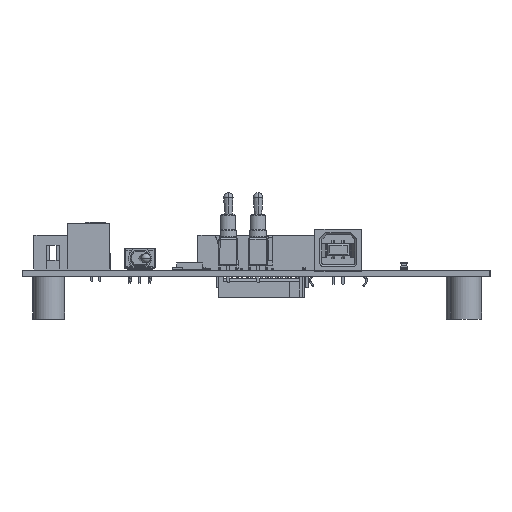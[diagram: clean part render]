
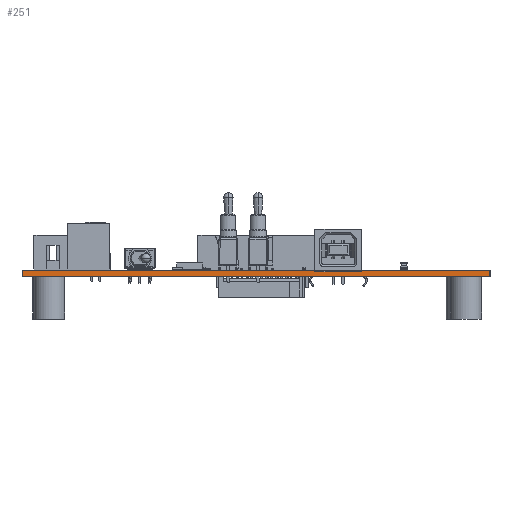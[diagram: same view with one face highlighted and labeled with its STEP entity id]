
A CAD part, left-side view. The second image highlights one B-rep face of the part: STEP entity #251.
In plain terms, the highlighted planar face has unit normal (-1, 0, 0).
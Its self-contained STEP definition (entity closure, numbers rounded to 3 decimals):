
#153 = EDGE_CURVE('',#154,#156,#158,.T.);
#154 = VERTEX_POINT('',#155);
#155 = CARTESIAN_POINT('',(0.,0.,0.));
#156 = VERTEX_POINT('',#157);
#157 = CARTESIAN_POINT('',(0.,0.,1.548));
#158 = LINE('',#159,#160);
#159 = CARTESIAN_POINT('',(0.,0.,0.));
#160 = VECTOR('',#161,1.);
#161 = DIRECTION('',(0.,0.,1.));
#226 = VERTEX_POINT('',#227);
#227 = CARTESIAN_POINT('',(0.,120.,1.548));
#233 = EDGE_CURVE('',#234,#226,#236,.T.);
#234 = VERTEX_POINT('',#235);
#235 = CARTESIAN_POINT('',(0.,120.,0.));
#236 = LINE('',#237,#238);
#237 = CARTESIAN_POINT('',(0.,120.,0.));
#238 = VECTOR('',#239,1.);
#239 = DIRECTION('',(0.,0.,1.));
#251 = ADVANCED_FACE('',(#252),#268,.F.);
#252 = FACE_BOUND('',#253,.F.);
#253 = EDGE_LOOP('',(#254,#255,#261,#262));
#254 = ORIENTED_EDGE('',*,*,#233,.T.);
#255 = ORIENTED_EDGE('',*,*,#256,.T.);
#256 = EDGE_CURVE('',#226,#156,#257,.T.);
#257 = LINE('',#258,#259);
#258 = CARTESIAN_POINT('',(0.,120.,1.548));
#259 = VECTOR('',#260,1.);
#260 = DIRECTION('',(0.,-1.,0.));
#261 = ORIENTED_EDGE('',*,*,#153,.F.);
#262 = ORIENTED_EDGE('',*,*,#263,.F.);
#263 = EDGE_CURVE('',#234,#154,#264,.T.);
#264 = LINE('',#265,#266);
#265 = CARTESIAN_POINT('',(0.,120.,0.));
#266 = VECTOR('',#267,1.);
#267 = DIRECTION('',(0.,-1.,0.));
#268 = PLANE('',#269);
#269 = AXIS2_PLACEMENT_3D('',#270,#271,#272);
#270 = CARTESIAN_POINT('',(0.,120.,0.));
#271 = DIRECTION('',(1.,0.,0.));
#272 = DIRECTION('',(0.,-1.,0.));
